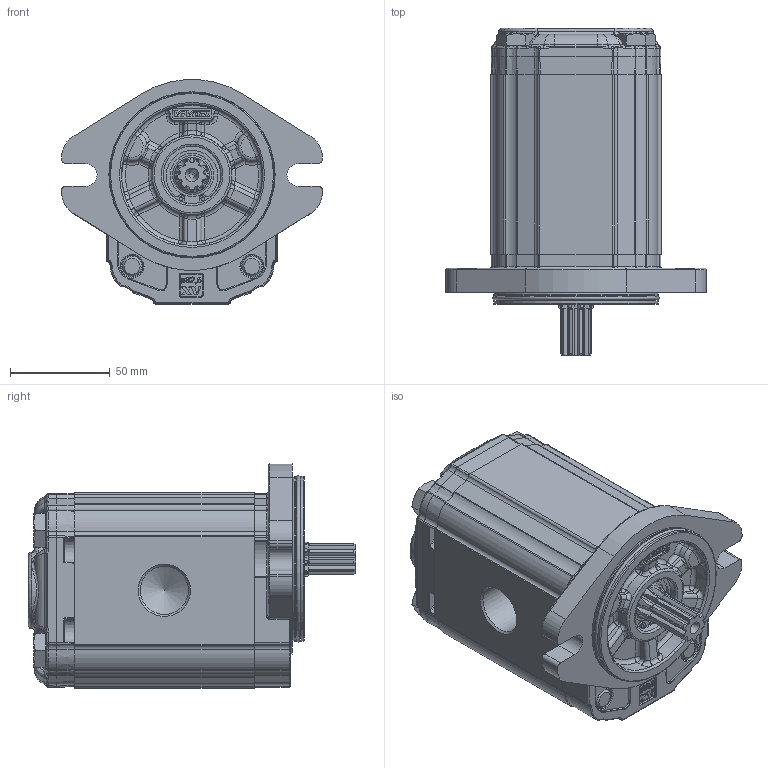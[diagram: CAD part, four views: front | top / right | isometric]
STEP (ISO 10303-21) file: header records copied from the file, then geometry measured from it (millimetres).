
FILE_DESCRIPTION(/* description */ ('Unknown'),/* implementation_level */ '2;1');
FILE_NAME(/* name */ 'X2P5951IDCA',/* time_stamp */ '2020-09-21T11:45:23+02:00',/* author */ ('Unknown'),/* organization */ ('Unknown'),/* preprocessor_version */ 'ST-DEVELOPER v16.7',/* originating_system */ 'DEX',/* authorisation */ $);
FILE_SCHEMA (('AUTOMOTIVE_DESIGN {1 0 10303 214 3 1 1}'));
Products named in the file (5): X2P5951IDCA; X2P51; 2I; X2DCH90; XP219-A
Assembly tree (4 placements, depth 2):
  X2P5951IDCA
    X2P51
    2I
    X2DCH90
    XP219-A
Bounding box: 130.38 x 163.7 x 112.3 mm (x, y, z)
Volume: 989817.7 mm3; surface area: 117795.3 mm2
Topology: 4 solids, 5 shells, 2195 faces, 5407 edges, 3280 vertices
Faces by surface type: cylinder 649, plane 589, bspline 570, torus 246, cone 103, sphere 38
Full cylindrical faces by diameter (mm): 2 x2, 10 x4, 10.5 x4, 11 x2, 16 x4, 17.42 x1, 17.48 x2, 18.724 x1, 20.595 x1, 21.741 x1, 24.117 x1, 25.834 x1, 28.56 x1, 28.57 x1, 28.8 x1, 30.291 x1, 30.4 x1, 79.6 x2, 82.5 x2
Entity records: 100888 total; most frequent: CARTESIAN_POINT 39076, ORIENTED_EDGE 10468, DIRECTION 8739, EDGE_CURVE 5234, AXIS2_PLACEMENT_3D 3323, VERTEX_POINT 3228, FACE_BOUND 2376, EDGE_LOOP 2372
